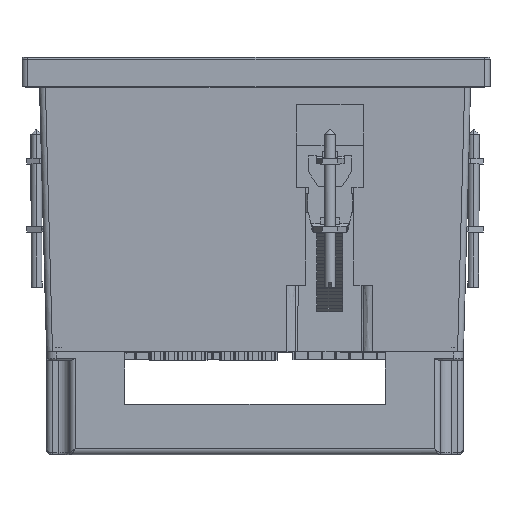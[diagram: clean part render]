
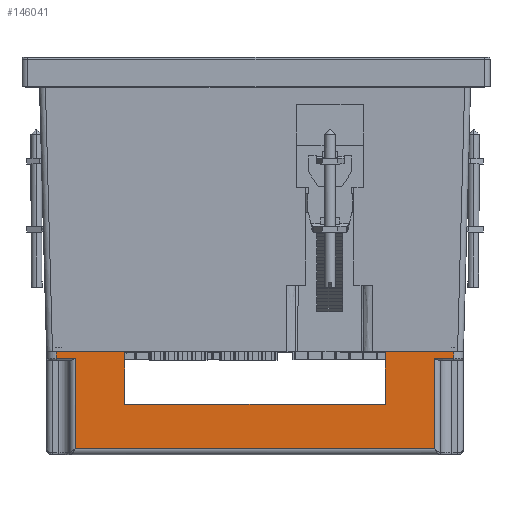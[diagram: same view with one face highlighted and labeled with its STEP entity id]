
A CAD part, front view. The second image highlights one B-rep face of the part: STEP entity #146041.
In plain terms, the highlighted planar face has unit normal (0, -1, 0) as drawn and (1, 0, 0) by its records, which use the part's own axes.
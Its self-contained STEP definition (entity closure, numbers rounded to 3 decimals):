
#2792 = EDGE_CURVE ( 'NONE', #153409, #24460, #203886, .T. ) ;
#2992 = EDGE_CURVE ( 'NONE', #208070, #24460, #181915, .T. ) ;
#3654 = VECTOR ( 'NONE', #73351, 1000. ) ;
#4582 = DIRECTION ( 'NONE',  ( 0., -1., 0. ) ) ;
#6131 = PLANE ( 'NONE',  #192005 ) ;
#10982 = VERTEX_POINT ( 'NONE', #127219 ) ;
#17652 = CARTESIAN_POINT ( 'NONE',  ( 53., 50.5, 0. ) ) ;
#20254 = CARTESIAN_POINT ( 'NONE',  ( 53., -50.5, 1.66 ) ) ;
#21616 = VERTEX_POINT ( 'NONE', #70434 ) ;
#24460 = VERTEX_POINT ( 'NONE', #17652 ) ;
#26201 = CARTESIAN_POINT ( 'NONE',  ( 53., -33.15, 13.4 ) ) ;
#27468 = CARTESIAN_POINT ( 'NONE',  ( 53., -33.15, 13.4 ) ) ;
#27756 = DIRECTION ( 'NONE',  ( -1., 0., 0. ) ) ;
#34397 = EDGE_LOOP ( 'NONE', ( #219485, #163424, #98966, #213636, #77334, #64169, #162538, #85181, #67844, #222741, #121316, #214253 ) ) ;
#37744 = CARTESIAN_POINT ( 'NONE',  ( 53., 50.5, 0. ) ) ;
#39389 = LINE ( 'NONE', #167022, #75847 ) ;
#42236 = CARTESIAN_POINT ( 'NONE',  ( 53., 33.15, 0. ) ) ;
#46271 = CARTESIAN_POINT ( 'NONE',  ( 53., 50.5, 0. ) ) ;
#54078 = DIRECTION ( 'NONE',  ( 0., 0., 1. ) ) ;
#60464 = EDGE_CURVE ( 'NONE', #153409, #169921, #122100, .T. ) ;
#60489 = LINE ( 'NONE', #96616, #235443 ) ;
#62017 = EDGE_CURVE ( 'NONE', #208070, #21616, #87537, .T. ) ;
#63875 = EDGE_CURVE ( 'NONE', #21616, #89953, #235856, .T. ) ;
#64169 = ORIENTED_EDGE ( 'NONE', *, *, #99039, .F. ) ;
#67844 = ORIENTED_EDGE ( 'NONE', *, *, #2992, .F. ) ;
#67893 = LINE ( 'NONE', #46271, #231756 ) ;
#68856 = LINE ( 'NONE', #86907, #163277 ) ;
#70434 = CARTESIAN_POINT ( 'NONE',  ( 53., 45.668, 1.66 ) ) ;
#73351 = DIRECTION ( 'NONE',  ( 0., -1., 0. ) ) ;
#75847 = VECTOR ( 'NONE', #112878, 1000. ) ;
#77334 = ORIENTED_EDGE ( 'NONE', *, *, #234338, .F. ) ;
#78484 = FACE_OUTER_BOUND ( 'NONE', #34397, .T. ) ;
#85181 = ORIENTED_EDGE ( 'NONE', *, *, #2792, .T. ) ;
#86907 = CARTESIAN_POINT ( 'NONE',  ( 53., -50.5, 26.2 ) ) ;
#87537 = LINE ( 'NONE', #235597, #198851 ) ;
#89953 = VERTEX_POINT ( 'NONE', #165904 ) ;
#90268 = VERTEX_POINT ( 'NONE', #193661 ) ;
#90467 = CARTESIAN_POINT ( 'NONE',  ( 53., 50.5, 26.2 ) ) ;
#96616 = CARTESIAN_POINT ( 'NONE',  ( 53., -45.668, 26.2 ) ) ;
#98966 = ORIENTED_EDGE ( 'NONE', *, *, #157734, .T. ) ;
#99039 = EDGE_CURVE ( 'NONE', #169921, #152651, #152648, .T. ) ;
#102537 = CARTESIAN_POINT ( 'NONE',  ( 53., 50.5, 1.66 ) ) ;
#103514 = VECTOR ( 'NONE', #231389, 1000. ) ;
#112047 = VERTEX_POINT ( 'NONE', #164978 ) ;
#112878 = DIRECTION ( 'NONE',  ( 0., -1., 0. ) ) ;
#121316 = ORIENTED_EDGE ( 'NONE', *, *, #63875, .T. ) ;
#122100 = LINE ( 'NONE', #195485, #213818 ) ;
#127219 = CARTESIAN_POINT ( 'NONE',  ( 53., -45.668, 24.7 ) ) ;
#133441 = LINE ( 'NONE', #20254, #3654 ) ;
#139885 = EDGE_CURVE ( 'NONE', #147485, #90268, #133441, .T. ) ;
#146041 = ADVANCED_FACE ( 'NONE', ( #78484 ), #6131, .F. ) ;
#147485 = VERTEX_POINT ( 'NONE', #205246 ) ;
#150091 = EDGE_CURVE ( 'NONE', #10982, #147485, #60489, .T. ) ;
#150300 = CARTESIAN_POINT ( 'NONE',  ( 53., -33.15, 13.4 ) ) ;
#152648 = LINE ( 'NONE', #26201, #165390 ) ;
#152651 = VERTEX_POINT ( 'NONE', #150300 ) ;
#153409 = VERTEX_POINT ( 'NONE', #42236 ) ;
#155385 = VERTEX_POINT ( 'NONE', #180377 ) ;
#157473 = DIRECTION ( 'NONE',  ( 0., 0., -1. ) ) ;
#157734 = EDGE_CURVE ( 'NONE', #90268, #112047, #68856, .T. ) ;
#161503 = EDGE_CURVE ( 'NONE', #89953, #10982, #39389, .T. ) ;
#162538 = ORIENTED_EDGE ( 'NONE', *, *, #60464, .F. ) ;
#163277 = VECTOR ( 'NONE', #214559, 1000. ) ;
#163424 = ORIENTED_EDGE ( 'NONE', *, *, #139885, .T. ) ;
#163862 = DIRECTION ( 'NONE',  ( 0., 0., -1. ) ) ;
#164978 = CARTESIAN_POINT ( 'NONE',  ( 53., -50.5, 0. ) ) ;
#165345 = DIRECTION ( 'NONE',  ( 0., 1., 0. ) ) ;
#165390 = VECTOR ( 'NONE', #4582, 1000. ) ;
#165904 = CARTESIAN_POINT ( 'NONE',  ( 53., 45.668, 24.7 ) ) ;
#167022 = CARTESIAN_POINT ( 'NONE',  ( 53., 50.5, 24.7 ) ) ;
#169921 = VERTEX_POINT ( 'NONE', #224223 ) ;
#172314 = DIRECTION ( 'NONE',  ( 0., -1., 0. ) ) ;
#177382 = DIRECTION ( 'NONE',  ( 0., 0., 1. ) ) ;
#179219 = CARTESIAN_POINT ( 'NONE',  ( 53., 45.668, 26.2 ) ) ;
#180377 = CARTESIAN_POINT ( 'NONE',  ( 53., -33.15, 0. ) ) ;
#181915 = LINE ( 'NONE', #90467, #184506 ) ;
#184506 = VECTOR ( 'NONE', #163862, 1000. ) ;
#192005 = AXIS2_PLACEMENT_3D ( 'NONE', #210840, #27756, #172314 ) ;
#192436 = LINE ( 'NONE', #27468, #219455 ) ;
#193661 = CARTESIAN_POINT ( 'NONE',  ( 53., -50.5, 1.66 ) ) ;
#195040 = VECTOR ( 'NONE', #54078, 1000. ) ;
#195485 = CARTESIAN_POINT ( 'NONE',  ( 53., 33.15, 13.4 ) ) ;
#198851 = VECTOR ( 'NONE', #234414, 1000. ) ;
#199488 = EDGE_CURVE ( 'NONE', #112047, #155385, #67893, .T. ) ;
#203886 = LINE ( 'NONE', #37744, #103514 ) ;
#205246 = CARTESIAN_POINT ( 'NONE',  ( 53., -45.668, 1.66 ) ) ;
#208070 = VERTEX_POINT ( 'NONE', #102537 ) ;
#210840 = CARTESIAN_POINT ( 'NONE',  ( 53., 50.5, 26.2 ) ) ;
#213636 = ORIENTED_EDGE ( 'NONE', *, *, #199488, .T. ) ;
#213818 = VECTOR ( 'NONE', #177382, 1000. ) ;
#214253 = ORIENTED_EDGE ( 'NONE', *, *, #161503, .T. ) ;
#214559 = DIRECTION ( 'NONE',  ( 0., 0., -1. ) ) ;
#219455 = VECTOR ( 'NONE', #157473, 1000. ) ;
#219485 = ORIENTED_EDGE ( 'NONE', *, *, #150091, .T. ) ;
#222741 = ORIENTED_EDGE ( 'NONE', *, *, #62017, .T. ) ;
#224223 = CARTESIAN_POINT ( 'NONE',  ( 53., 33.15, 13.4 ) ) ;
#224265 = DIRECTION ( 'NONE',  ( 0., 0., -1. ) ) ;
#231389 = DIRECTION ( 'NONE',  ( 0., 1., 0. ) ) ;
#231756 = VECTOR ( 'NONE', #165345, 1000. ) ;
#234338 = EDGE_CURVE ( 'NONE', #152651, #155385, #192436, .T. ) ;
#234414 = DIRECTION ( 'NONE',  ( 0., -1., 0. ) ) ;
#235443 = VECTOR ( 'NONE', #224265, 1000. ) ;
#235597 = CARTESIAN_POINT ( 'NONE',  ( 53., 45.668, 1.66 ) ) ;
#235856 = LINE ( 'NONE', #179219, #195040 ) ;
